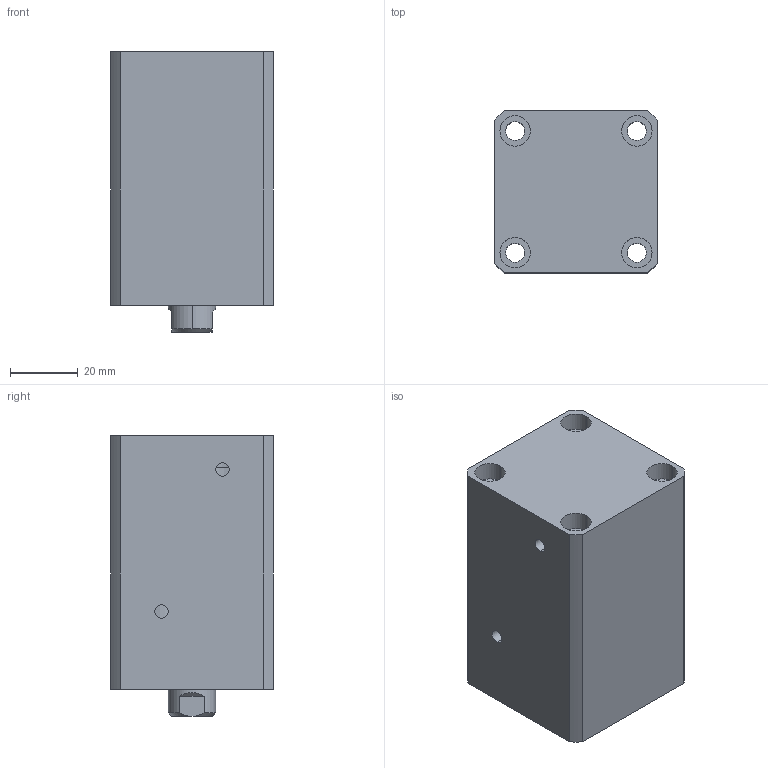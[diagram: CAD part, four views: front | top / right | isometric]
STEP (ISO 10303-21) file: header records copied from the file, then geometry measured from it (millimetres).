
FILE_DESCRIPTION (( 'STEP AP214' ), '1' );
FILE_NAME ('chtb-sdma25x30n_asm.STEP', '2018-05-22T07:05:07', ( 'Windows' ), ( 'Microsoft' ), 'SwSTEP 2.0', 'SolidWorks 2015', '' );
FILE_SCHEMA (( 'AUTOMOTIVE_DESIGN' ));
Length unit declared in the file: millimetre
Products named in the file (4): CHTB-SDMA25X30NHSG; CHTB-SDMA25X30NBT; CHTB-25QG; chtb-sdma25x30n_asm
Assembly tree (3 placements, depth 2):
  chtb-sdma25x30n_asm
    CHTB-25QG
    CHTB-SDMA25X30NBT
    CHTB-SDMA25X30NHSG
Bounding box: 48 x 48 x 83 mm (x, y, z)
Volume: 150240.7 mm3; surface area: 41581.2 mm2
Topology: 3 solids, 3 shells, 142 faces, 379 edges, 257 vertices
Faces by surface type: cylinder 89, plane 34, bspline 10, cone 9
Entity records: 8020 total; most frequent: CARTESIAN_POINT 4393, ORIENTED_EDGE 746, DIRECTION 661, EDGE_CURVE 373, AXIS2_PLACEMENT_3D 272, VERTEX_POINT 257, EDGE_LOOP 180, FACE_OUTER_BOUND 142
